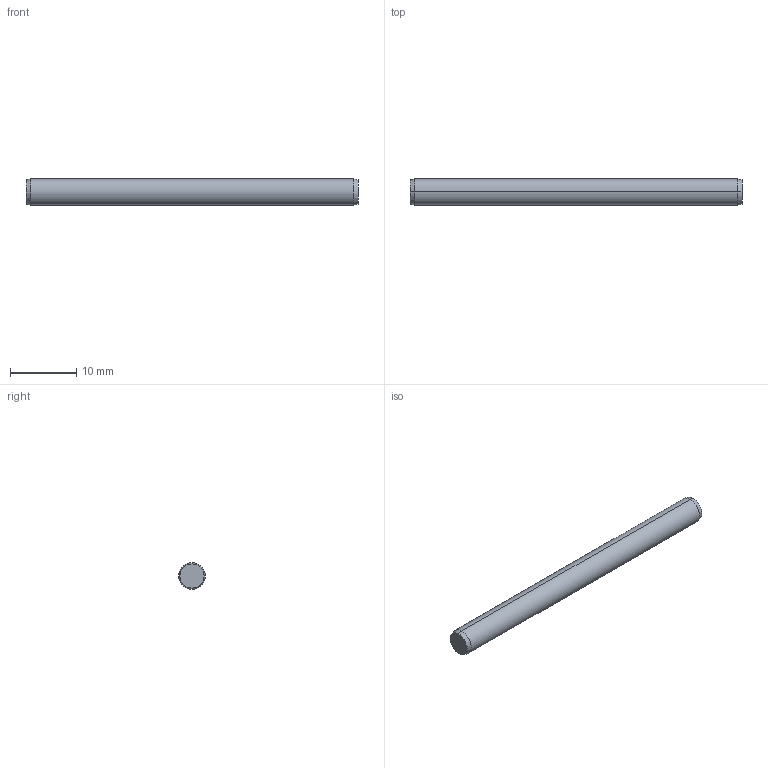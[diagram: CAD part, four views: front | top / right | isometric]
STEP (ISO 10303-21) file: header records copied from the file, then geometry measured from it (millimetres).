
FILE_DESCRIPTION (( 'STEP AP203' ), '1' );
FILE_NAME ('P1206.040-050.step', '2017-06-14T08:13:02', ( 'User' ), ( '' ), 'SwSTEP 2.0', 'SolidWorks 2009', '' );
FILE_SCHEMA (( 'CONFIG_CONTROL_DESIGN' ));
Length unit declared in the file: millimetre
Products named in the file (1): P1206.040-050
Bounding box: 50 x 4 x 4 mm (x, y, z)
Volume: 626.7 mm3; surface area: 648.7 mm2
Topology: 1 solids, 1 shells, 8 faces, 14 edges, 8 vertices
Faces by surface type: cone 4, cylinder 2, plane 2
Entity records: 271 total; most frequent: DIRECTION 40, CARTESIAN_POINT 31, ORIENTED_EDGE 28, AXIS2_PLACEMENT_3D 17, EDGE_CURVE 14, PERSON_AND_ORGANIZATION 8, CIRCLE 8, FACE_OUTER_BOUND 8
